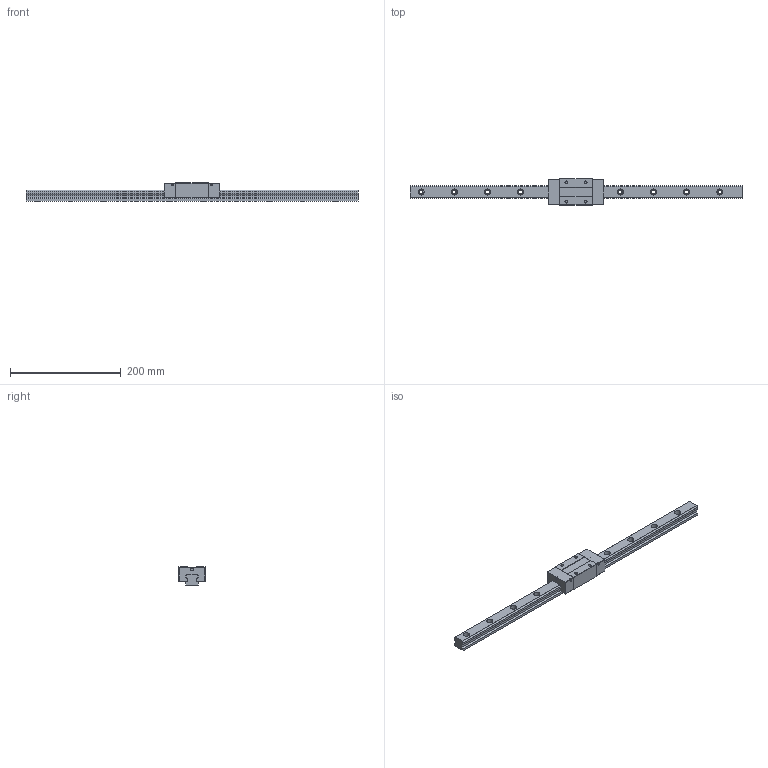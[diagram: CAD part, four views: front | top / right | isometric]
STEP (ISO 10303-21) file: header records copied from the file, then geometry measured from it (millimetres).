
FILE_DESCRIPTION (( 'STEP AP203' ), '1' );
FILE_NAME ('TRS25VN-WZ.STEP', '2024-06-12T07:00:53', ( '' ), ( '' ), 'SwSTEP 2.0', 'SolidWorks 2022', '' );
FILE_SCHEMA (( 'CONFIG_CONTROL_DESIGN' ));
Length unit declared in the file: millimetre
Products named in the file (1): TRS25VN-WZ
Bounding box: 600 x 48 x 33 mm (x, y, z)
Volume: 332731.7 mm3; surface area: 79971.2 mm2
Topology: 2 solids, 2 shells, 192 faces, 496 edges, 328 vertices
Faces by surface type: cylinder 96, plane 96
Entity records: 6023 total; most frequent: DIRECTION 1074, CARTESIAN_POINT 1017, ORIENTED_EDGE 992, EDGE_CURVE 496, AXIS2_PLACEMENT_3D 385, VERTEX_POINT 328, LINE 304, VECTOR 304
